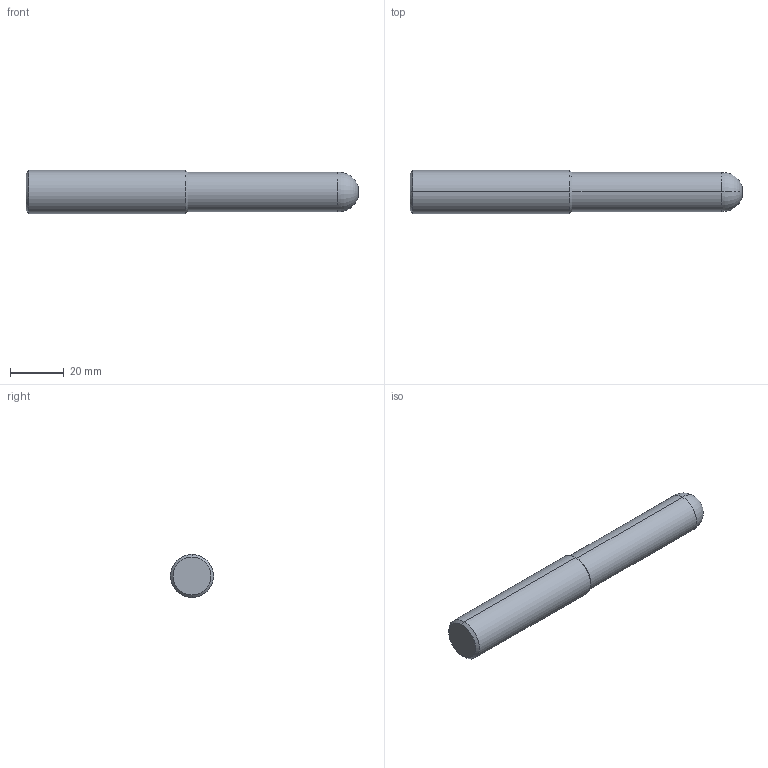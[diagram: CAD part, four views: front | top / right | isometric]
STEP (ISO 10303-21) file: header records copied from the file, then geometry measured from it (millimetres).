
FILE_DESCRIPTION (( 'STEP AP214' ), '1' );
FILE_NAME ('ZBS1602160K.STEP', '2021-10-01T00:15:47', ( '' ), ( '' ), 'SwSTEP 2.0', 'SolidWorks 2018', '' );
FILE_SCHEMA (( 'AUTOMOTIVE_DESIGN' ));
Length unit declared in the file: millimetre
Products named in the file (1): ZBS1602160K
Bounding box: 123 x 16 x 16 mm (x, y, z)
Volume: 22079.1 mm3; surface area: 6083 mm2
Topology: 1 solids, 1 shells, 12 faces, 22 edges, 12 vertices
Faces by surface type: cone 4, cylinder 4, torus 2, plane 2
Entity records: 330 total; most frequent: DIRECTION 62, CARTESIAN_POINT 47, ORIENTED_EDGE 44, AXIS2_PLACEMENT_3D 27, EDGE_CURVE 22, CIRCLE 14, VERTEX_POINT 12, FACE_OUTER_BOUND 12
